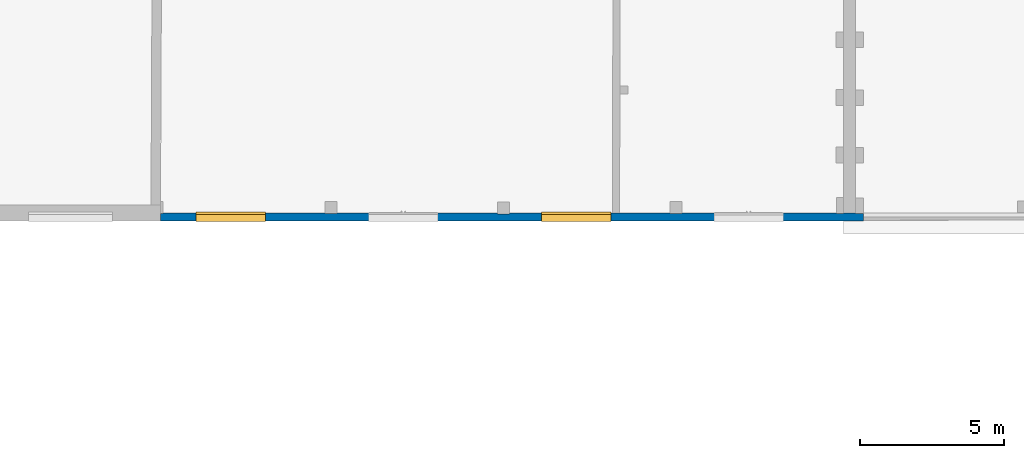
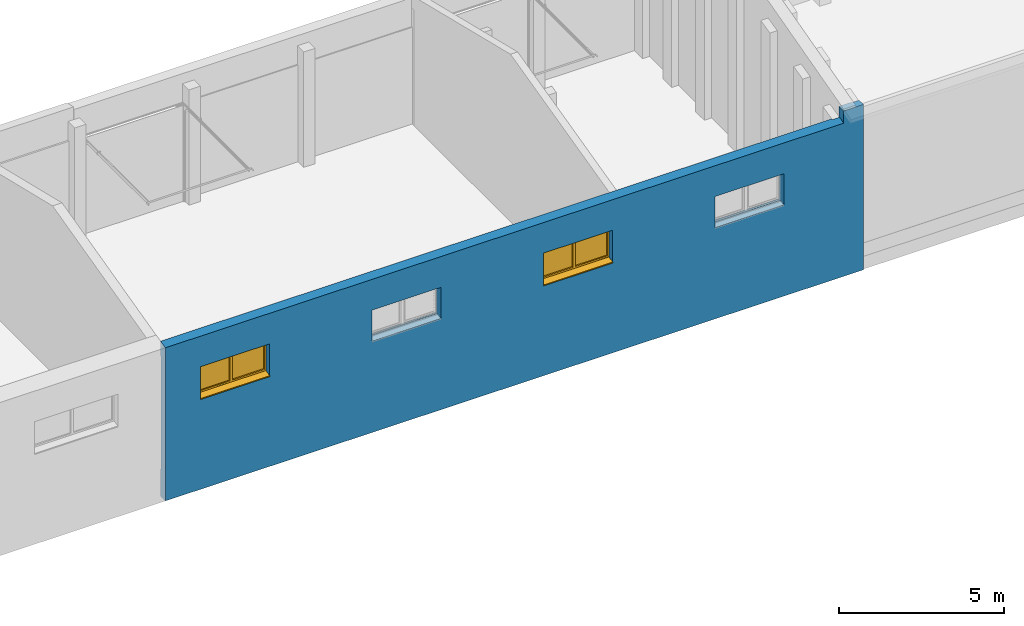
# One storey, part 107 of 301: 2 windows, 1 wall, 4 openings.
"""IFC2X3 building model written with IfcOpenShell, lengths in millimetres."""

import ifcopenshell
import ifcopenshell.guid

model = None  # the IFC model being written
_history = None  # IfcOwnerHistory: only IFC2X3 demands one
_inside = {}  # id of a spatial element -> (the spatial element, [elements in it])
_under = {}  # id of a project, library or spatial element -> (it, [spatial elements below it])
_declared = {}  # id of a project -> (the project, [libraries it declares])
_typed = {}  # id of a type object -> (the type object, [elements of that type])
_made_of = {}  # id of a material, layer set ... -> (it, [elements and type objects made of it])


def new_model(schema):
    """Start an empty IFC model of exactly this schema.

    Asked for "IFC4X3", IfcOpenShell would pick the latest addendum, in which some entities
    have other attributes; the version numbers below select the first issue.
    IFC2X3 requires an IfcOwnerHistory on every rooted entity: one is made here for all.
    """
    global model, _history
    if schema == "IFC4X3":
        model = ifcopenshell.file(schema_version=(4, 3, 0, 0))
    else:
        model = ifcopenshell.file(schema=schema)
    _inside.clear()
    _under.clear()
    _declared.clear()
    _typed.clear()
    _made_of.clear()
    _history = None
    if model.schema == "IFC2X3":
        org = make("IfcOrganization", Name="unknown")
        user = make(
            "IfcPersonAndOrganization",
            ThePerson=make("IfcPerson", FamilyName="unknown"),
            TheOrganization=org,
        )
        app = make(
            "IfcApplication",
            ApplicationDeveloper=org,
            Version="unknown",
            ApplicationFullName="unknown",
            ApplicationIdentifier="unknown",
        )
        _history = make(
            "IfcOwnerHistory",
            OwningUser=user,
            OwningApplication=app,
            ChangeAction="ADDED",
            CreationDate=0,
        )
    return model


def make(cls, **values):
    """One entity of the class cls with the attributes given. An attribute that is None is left unset."""
    return model.create_entity(
        cls, **{name: value for name, value in values.items() if value is not None}
    )


def entity(cls, *values):
    """Any entity or typed value of the class cls, its attributes in the order of the schema. None: left unset."""
    e = model.create_entity(cls)
    for i, value in enumerate(values):
        if value is not None:
            e[i] = value
    return e


def rooted(cls, **values):
    """An entity with a GlobalId (a new one), such as an element, a storey or a relation."""
    return make(cls, GlobalId=ifcopenshell.guid.new(), OwnerHistory=_history, **values)


def si_unit(unit_type, name, prefix=None):
    """IfcSIUnit, for example si_unit("LENGTHUNIT", "METRE", prefix="MILLI")."""
    return make("IfcSIUnit", UnitType=unit_type, Prefix=prefix, Name=name)


def converted_unit(unit_type, name, factor, base, dimensions=None, offset=None):
    """IfcConversionBasedUnit, such as the inch: factor (a typed value) times the base unit."""
    return make(
        "IfcConversionBasedUnit"
        if offset is None
        else "IfcConversionBasedUnitWithOffset",
        ConversionOffset=offset,
        Dimensions=None
        if dimensions is None
        else entity("IfcDimensionalExponents", *dimensions),
        UnitType=unit_type,
        Name=name,
        ConversionFactor=make(
            "IfcMeasureWithUnit", ValueComponent=factor, UnitComponent=base
        ),
    )


def derived_unit(unit_type, elements):
    """IfcDerivedUnit: a product of units, each with its exponent."""
    return make(
        "IfcDerivedUnit",
        Elements=[
            make("IfcDerivedUnitElement", Unit=unit, Exponent=power)
            for unit, power in elements
        ],
        UnitType=unit_type,
    )


def money_unit(currency):
    """IfcMonetaryUnit."""
    return make("IfcMonetaryUnit", Currency=currency)


def assignment(units):
    """IfcUnitAssignment: the units of a project."""
    return None if units is None else make("IfcUnitAssignment", Units=units)


def point(xyz):
    """IfcCartesianPoint."""
    return None if xyz is None else make("IfcCartesianPoint", Coordinates=xyz)


def direction(xyz):
    """IfcDirection."""
    return None if xyz is None else make("IfcDirection", DirectionRatios=xyz)


def frame(location, z_axis=None, x_axis=None):
    """IfcAxis2Placement3D, a coordinate frame: its origin and axes. An axis left out is left unset."""
    return make(
        "IfcAxis2Placement3D",
        Location=point(location),
        Axis=direction(z_axis),
        RefDirection=direction(x_axis),
    )


def origin_with_axes():
    """The frame at (0, 0, 0) with the z axis (0, 0, 1) and the x axis (1, 0, 0) written out."""
    return frame((0.0, 0.0, 0.0), z_axis=(0.0, 0.0, 1.0), x_axis=(1.0, 0.0, 0.0))


def place(relative_to, where):
    """IfcLocalPlacement: puts the frame where relative to a parent placement (None: the world)."""
    return make(
        "IfcLocalPlacement", PlacementRelTo=relative_to, RelativePlacement=where
    )


def context(
    kind, dimensions, precision=None, world=None, true_north=None, identifier=None
):
    """IfcGeometricRepresentationContext, for example the 3D "Model" context."""
    return make(
        "IfcGeometricRepresentationContext",
        ContextIdentifier=identifier,
        ContextType=kind,
        CoordinateSpaceDimension=dimensions,
        Precision=precision,
        WorldCoordinateSystem=world,
        TrueNorth=true_north,
    )


def subcontext(parent, identifier, kind, view, scale=None):
    """IfcGeometricRepresentationSubContext, for example "Body" below "Model"."""
    return make(
        "IfcGeometricRepresentationSubContext",
        ContextIdentifier=identifier,
        ContextType=kind,
        ParentContext=parent,
        TargetScale=scale,
        TargetView=view,
    )


def project(units=None, contexts=None):
    """IfcProject with its units and contexts."""
    return rooted(
        "IfcProject",
        Name="project",
        RepresentationContexts=contexts,
        UnitsInContext=assignment(units),
    )


def spatial(cls, under=None, at=None, **own):
    """A site, building, storey or space (cls), placed at a placement, below another one or the project."""
    s = rooted(cls, ObjectPlacement=at, **own)
    if under is not None:
        _under.setdefault(under.id(), (under, []))[1].append(s)
    return s


def faces_of(points, faces, orient=None, outer=None):
    """IfcFace entities. A face is a list of loops; a loop is a list of indices into points, from 0.

    orient and outer hold one flag for each loop. By default every Orientation is true, the
    first loop of a face is its IfcFaceOuterBound and the others are IfcFaceBound.
    """
    made = []
    for i, loops in enumerate(faces):
        bounds = []
        for j, loop in enumerate(loops):
            is_outer = j == 0 if outer is None else outer[i][j]
            bounds.append(
                make(
                    "IfcFaceOuterBound" if is_outer else "IfcFaceBound",
                    Bound=make("IfcPolyLoop", Polygon=[points[k] for k in loop]),
                    Orientation=True if orient is None else orient[i][j],
                )
            )
        made.append(make("IfcFace", Bounds=bounds))
    return made


def open_shell(faces, orient=None, outer=None):
    """The faces of one IfcOpenShell. surface_model builds it on its shared points."""
    return ("IfcOpenShell", faces, orient, outer)


def faceted_brep(points, faces, orient=None, outer=None, voids=None):
    """IfcFacetedBrep: a solid bounded by flat faces; with voids (closed shells), ...WithVoids."""
    shared = [point(p) for p in points]
    hull = make("IfcClosedShell", CfsFaces=faces_of(shared, faces, orient, outer))
    if voids is None:
        return make("IfcFacetedBrep", Outer=hull)
    return make(
        "IfcFacetedBrepWithVoids",
        Outer=hull,
        Voids=[
            make(cls, CfsFaces=faces_of(shared, fs, o, b)) for cls, fs, o, b in voids
        ],
    )


def surface_model(cls, points, shells):
    """IfcFaceBasedSurfaceModel or IfcShellBasedSurfaceModel (cls): surfaces that need not close."""
    shared = [point(p) for p in points]
    made = [make(c, CfsFaces=faces_of(shared, fs, o, b)) for c, fs, o, b in shells]
    if cls == "IfcFaceBasedSurfaceModel":
        return make(cls, FbsmFaces=made)
    return make(cls, SbsmBoundary=made)


def shape(context_of_items, identifier, shape_type, items):
    """IfcShapeRepresentation: the items that make up one representation, for example the "Body"."""
    return make(
        "IfcShapeRepresentation",
        ContextOfItems=context_of_items,
        RepresentationIdentifier=identifier,
        RepresentationType=shape_type,
        Items=items,
    )


def source(mapping_origin, context_of_items, identifier, shape_type, items):
    """IfcRepresentationMap: a shape defined once, which mapped items show again and again."""
    return make(
        "IfcRepresentationMap",
        MappingOrigin=mapping_origin,
        MappedRepresentation=shape(context_of_items, identifier, shape_type, items),
    )


def transform(
    local_origin,
    x_axis=None,
    y_axis=None,
    z_axis=None,
    scale=None,
    scale2=None,
    scale3=None,
    uniform=True,
):
    """IfcCartesianTransformationOperator3D, or its non-uniform kind. x_axis, y_axis, z_axis: its Axis1, 2, 3."""
    if uniform:
        return make(
            "IfcCartesianTransformationOperator3D",
            Axis1=direction(x_axis),
            Axis2=direction(y_axis),
            LocalOrigin=point(local_origin),
            Scale=scale,
            Axis3=direction(z_axis),
        )
    return make(
        "IfcCartesianTransformationOperator3DnonUniform",
        Axis1=direction(x_axis),
        Axis2=direction(y_axis),
        LocalOrigin=point(local_origin),
        Scale=scale,
        Axis3=direction(z_axis),
        Scale2=scale2,
        Scale3=scale3,
    )


def mapped(mapping_source, mapping_target):
    """IfcMappedItem: shows the shape of a source again, moved by a transform."""
    return make(
        "IfcMappedItem", MappingSource=mapping_source, MappingTarget=mapping_target
    )


def material(Name=None, Category=None):
    """IfcMaterial."""
    return make("IfcMaterial", Name=Name, Category=Category)


def made_of(thing, what):
    """Note that an element or type object is made of a material, layer set ...; save() writes the relation."""
    if what is not None:
        _made_of.setdefault(what.id(), (what, []))[1].append(thing)
    return thing


def type_object(cls, material=None, **own):
    """A type object (cls), such as IfcWallType, which elements share."""
    return made_of(rooted(cls, **own), material)


def element(
    cls,
    number,
    at=None,
    inside=None,
    cuts=None,
    type_object=None,
    material=None,
    context=None,
    identifier="Body",
    shape_type=None,
    held_by="IfcProductDefinitionShape",
    body=None,
    shapes=None,
    **own,
):
    """One element of the class cls, such as IfcWall. Its Tag is "e" and its number.

    at: its placement. inside: the storey or other place that contains it. cuts: it is an
    opening in that element (IfcRelVoidsElement). A single representation is given by context,
    identifier, shape_type and body (its items); several are given by shapes. held_by: the class
    of the entity that holds the representations. save() writes the other relations.
    """
    e = rooted(cls, Tag="e%d" % number, ObjectPlacement=at, **own)
    if body is not None:
        shapes = [shape(context, identifier, shape_type, body)]
    if shapes is not None:
        e.Representation = make(held_by, Representations=shapes)
    if inside is not None:
        _inside.setdefault(inside.id(), (inside, []))[1].append(e)
    if cuts is not None:
        rooted(
            "IfcRelVoidsElement", RelatingBuildingElement=cuts, RelatedOpeningElement=e
        )
    if type_object is not None:
        _typed.setdefault(type_object.id(), (type_object, []))[1].append(e)
    return made_of(e, material)


def fill(opening, filler):
    """IfcRelFillsElement: the door or window that sits in an opening."""
    return rooted(
        "IfcRelFillsElement",
        RelatingOpeningElement=opening,
        RelatedBuildingElement=filler,
    )


def aggregate(whole, parts):
    """IfcRelAggregates: a whole, such as a stair, and the parts it consists of."""
    return rooted("IfcRelAggregates", RelatingObject=whole, RelatedObjects=parts)


def save(model, path):
    """Write the relations noted so far, then the file.

    IfcRelAggregates (storeys below a building ...), IfcRelContainedInSpatialStructure (elements
    in a storey), IfcRelDefinesByType, IfcRelAssociatesMaterial and IfcRelDeclares: one each for
    every whole, place, type object, material and project.
    """
    for whole, parts in _under.values():
        aggregate(whole, parts)
    for where, things in _inside.values():
        rooted(
            "IfcRelContainedInSpatialStructure",
            RelatedElements=things,
            RelatingStructure=where,
        )
    for kind, things in _typed.values():
        rooted("IfcRelDefinesByType", RelatedObjects=things, RelatingType=kind)
    for what, things in _made_of.values():
        rooted("IfcRelAssociatesMaterial", RelatedObjects=things, RelatingMaterial=what)
    for by, libraries in _declared.values():
        rooted("IfcRelDeclares", RelatingContext=by, RelatedDefinitions=libraries)
    model.write(path)


model = new_model("IFC2X3")

# Units and contexts
model_context = context("Model", 3, precision=0.01, world=origin_with_axes(), true_north=direction((0.0, 1.0)))
body_context = subcontext(model_context, "Body", "Model", "MODEL_VIEW")
ifc_project = project(units=[si_unit("LENGTHUNIT", "METRE", prefix="MILLI"), si_unit("AREAUNIT", "SQUARE_METRE"), si_unit("VOLUMEUNIT", "CUBIC_METRE"), converted_unit("PLANEANGLEUNIT", "DEGREE", entity("IfcPlaneAngleMeasure", 0.0174532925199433), si_unit("PLANEANGLEUNIT", "RADIAN"), dimensions=[0, 0, 0, 0, 0, 0, 0]), money_unit("EUR"), converted_unit("TIMEUNIT", "Year", entity("IfcTimeMeasure", 31557600.0), si_unit("TIMEUNIT", "SECOND"), dimensions=[0, 0, 1, 0, 0, 0, 0]), si_unit("MASSUNIT", "GRAM", prefix="KILO"), si_unit("THERMODYNAMICTEMPERATUREUNIT", "DEGREE_CELSIUS"), si_unit("LUMINOUSINTENSITYUNIT", "LUMEN"), si_unit("ENERGYUNIT", "JOULE", prefix="MEGA"), derived_unit("THERMALCONDUCTANCEUNIT", [(si_unit("POWERUNIT", "WATT"), 1), (si_unit("LENGTHUNIT", "METRE"), -1), (si_unit("THERMODYNAMICTEMPERATUREUNIT", "KELVIN"), -1)]), derived_unit("SPECIFICHEATCAPACITYUNIT", [(si_unit("ENERGYUNIT", "JOULE"), 1), (si_unit("MASSUNIT", "GRAM", prefix="KILO"), -1), (si_unit("THERMODYNAMICTEMPERATUREUNIT", "KELVIN"), -1)]), derived_unit("MASSDENSITYUNIT", [(si_unit("MASSUNIT", "GRAM", prefix="KILO"), 1), (si_unit("VOLUMEUNIT", "CUBIC_METRE"), -1)])], contexts=[model_context])

# Site, building, storey
site_placement = place(None, frame((0.0, 0.0, 8650.0), z_axis=(0.0, 0.0, 1.0), x_axis=(1.0, 0.0, 0.0)))
site = spatial("IfcSite", under=ifc_project, at=site_placement, Name="43301:001:0844", CompositionType="ELEMENT")
building_placement = place(site_placement, origin_with_axes())
building = spatial("IfcBuilding", under=site, at=building_placement, Name="Kuressaare Ametikooli tuulikute mehaanikute õppekorpus", CompositionType="ELEMENT")
storey_placement = place(building_placement, origin_with_axes())
storey = spatial("IfcBuildingStorey", under=building, at=storey_placement, Name="1.korrus", CompositionType="ELEMENT", Elevation=0.0)

# Wall, openings, windows
ifc_material = material(Name="GENEERILINE - KONSTRUKTRIOON")
wall_type = type_object("IfcWallType", Name="GENEERILINE - KONSTRUKTRIOON 290", PredefinedType="NOTDEFINED")
wall_placement = place(storey_placement, frame((200953.7988836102, 13517.65771690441, -1000.0), z_axis=(0.0, 0.0, 1.0), x_axis=(-1.0, 0.0, 0.0)))
wall = element("IfcWall", 1, at=wall_placement, inside=storey, type_object=wall_type, material=ifc_material, Name="VS-XX", context=body_context, shape_type="Brep", body=[
    faceted_brep([(690.1785833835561, -259.9999999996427, 5733.309494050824), (690.1785833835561, -259.9999999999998, 6123.187574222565), (690.1785833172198, -289.9999999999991, 6123.187574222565), (690.1785833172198, -289.9999999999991, 1000.0), (690.1785833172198, -259.9999999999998, 1000.0), (690.1785833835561, 0.0, 6123.187574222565), (690.1785833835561, 0.0, 5670.001135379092), (0.0, 0.0, 6123.187574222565), (-0.0002901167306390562, -259.604008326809, 6123.187574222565), (270.1786931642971, -259.604062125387, 6123.187574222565), (270.1786871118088, -289.9999999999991, 6123.187574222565), (24444.65886896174, -290.0000000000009, 5740.614304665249), (940.178673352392, -289.9999999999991, 5740.614304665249), (940.178673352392, -289.9999999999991, 1000.0), (270.1785410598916, -289.9999999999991, 469.9999999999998), (0.0, -289.9999999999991, 469.9999999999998), (0.0, -289.9999999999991, 0.0), (24444.65886896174, -290.0000000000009, 0.0), (24444.65886896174, -290.0000000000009, 1000.0), (24354.02165696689, -290.0000000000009, 1000.0), (24354.02165696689, -290.0000000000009, 5200.0), (24444.65886896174, -290.0000000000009, 5200.0), (12309.04459543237, -289.9999999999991, 5250.0), (12729.04459585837, -289.9999999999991, 5250.0), (12729.04459585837, -289.9999999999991, 1000.0), (12309.04459543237, -289.9999999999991, 1000.0), (18309.02165696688, -289.9999999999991, 5250.0), (18729.02165739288, -289.9999999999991, 5250.0), (18729.02165739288, -290.0000000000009, 1000.0), (18309.02165696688, -290.0000000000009, 1000.0), (6308.406543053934, -289.9999999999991, 5250.0), (6728.406546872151, -289.9999999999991, 5250.0), (6728.406546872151, -289.9999999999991, 1000.0), (6308.406543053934, -289.9999999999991, 1000.0), (20792.81231286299, -290.0000000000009, 3420.0), (20792.81231286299, -290.0000000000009, 4540.0), (23212.81231286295, -290.0000000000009, 4540.0), (23212.81231286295, -290.0000000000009, 3420.0), (11201.36036892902, -289.9999999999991, 4540.0), (11201.36036892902, -289.9999999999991, 3420.0), (8781.360368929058, -289.9999999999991, 3420.0), (8781.360368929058, -289.9999999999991, 4540.0), (14792.65494283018, -290.0000000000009, 3430.0), (14792.65494283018, -290.0000000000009, 4530.0), (17212.65494283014, -290.0000000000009, 4530.0), (17212.65494283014, -290.0000000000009, 3430.0), (5203.376025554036, -289.9999999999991, 4530.0), (5203.376025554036, -289.9999999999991, 3430.0), (2783.376025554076, -289.9999999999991, 3430.0), (2783.376025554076, -289.9999999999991, 4530.0), (940.178673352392, -259.9999999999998, 1000.0), (940.178673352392, -259.9999999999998, 5733.309494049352), (24444.65886896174, 0.0, 5670.001135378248), (24444.65886896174, 0.0, 0.0), (0.0, 0.0, 0.0), (20792.81231286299, 0.0, 4540.0), (20792.81231286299, 0.0, 3370.0), (23212.81231286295, 0.0, 3370.0), (23212.81231286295, 0.0, 4540.0), (11201.36036892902, 0.0, 3370.0), (11201.36036892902, 0.0, 4540.0), (8781.360368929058, 0.0, 4540.0), (8781.360368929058, 0.0, 3370.0), (14792.65494283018, 0.0, 4530.0), (14792.65494283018, 0.0, 3380.0), (17212.65494283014, 0.0, 3380.0), (17212.65494283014, 0.0, 4530.0), (5203.376025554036, 0.0, 3380.0), (5203.376025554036, 0.0, 4530.0), (2783.376025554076, 0.0, 4530.0), (2783.376025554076, 0.0, 3380.0), (0.0, -280.0601435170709, 469.9999999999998), (-0.0002941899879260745, -280.0601435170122, 549.9999999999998), (-0.0002901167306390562, -259.604008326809, 549.9999999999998), (270.1786931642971, -259.604062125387, 549.9999999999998), (270.1786891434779, -279.7967655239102, 549.9999999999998), (270.1785410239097, -279.79676552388, 469.9999999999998), (24444.65886896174, -259.9999999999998, 5200.0), (24444.65886896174, -259.9999999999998, 1000.0), (24354.02165696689, -259.9999999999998, 1000.0), (24354.02165696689, -259.9999999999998, 5200.0), (12309.04459543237, -243.4090066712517, 5250.0), (12729.04459585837, -243.4090066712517, 5250.0), (12729.04459585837, -243.4090066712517, 1000.0), (12309.04459543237, -243.4090066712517, 1000.0), (18309.02165696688, -259.9999999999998, 5250.0), (18729.02165739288, -259.9999999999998, 5250.0), (18729.02165739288, -259.9999999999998, 1000.0), (18309.02165696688, -259.9999999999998, 1000.0), (6308.406543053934, -259.9999999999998, 5250.0), (6728.406546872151, -259.9999999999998, 5250.0), (6728.406546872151, -259.9999999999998, 1000.0), (6308.406543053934, -259.9999999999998, 1000.0), (20792.81231286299, -230.0000000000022, 3420.0), (20792.81231286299, -230.0000000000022, 4540.0), (23212.81231286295, -230.0000000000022, 4540.0), (23212.81231286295, -230.0000000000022, 3420.0), (11201.36036892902, -230.0000000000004, 3420.0), (11201.36036892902, -230.0000000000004, 4540.0), (8781.360368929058, -230.0000000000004, 3420.0), (8781.360368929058, -230.0000000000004, 4540.0), (14792.65494283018, -230.0000000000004, 3430.0), (14792.65494283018, -230.0000000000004, 4530.0), (17212.65494283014, -230.0000000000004, 4530.0), (17212.65494283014, -230.0000000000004, 3430.0), (5203.376025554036, -209.9999999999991, 3430.0), (5203.376025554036, -209.9999999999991, 4530.0), (2783.376025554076, -209.9999999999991, 3430.0), (2783.376025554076, -209.9999999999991, 4530.0), (20792.81231286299, -230.000000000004, 3370.0), (23212.81231286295, -230.000000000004, 3370.0), (11201.36036892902, -230.0000000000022, 3370.0), (8781.360368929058, -230.0000000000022, 3370.0), (14792.65494283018, -230.0000000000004, 3380.0), (17212.65494283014, -230.0000000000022, 3380.0), (5203.376025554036, -210.0000000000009, 3380.0), (2783.376025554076, -209.9999999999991, 3380.0)], [[[0, 1, 2, 3, 4]], [[5, 1, 0, 6]], [[1, 5, 7, 8, 9, 10, 2]], [[11, 12, 13, 3, 2, 10, 14, 15, 16, 17, 18, 19, 20, 21], [22, 23, 24, 25], [26, 27, 28, 29], [30, 31, 32, 33], [34, 35, 36, 37], [38, 39, 40, 41], [42, 43, 44, 45], [46, 47, 48, 49]], [[50, 4, 3, 13]], [[51, 0, 4, 50]], [[0, 51, 12, 11, 52, 6]], [[6, 52, 53, 54, 7, 5], [55, 56, 57, 58], [59, 60, 61, 62], [63, 64, 65, 66], [67, 68, 69, 70]], [[71, 72, 73, 8, 7, 54, 16, 15]], [[73, 74, 9, 8]], [[9, 74, 75, 76, 14, 10]], [[12, 51, 50, 13]], [[15, 14, 76, 71]], [[53, 17, 16, 54]], [[52, 11, 21, 77, 78, 18, 17, 53]], [[78, 79, 19, 18]], [[79, 80, 20, 19]], [[80, 77, 21, 20]], [[81, 82, 23, 22]], [[82, 83, 24, 23]], [[83, 84, 25, 24]], [[84, 81, 22, 25]], [[85, 86, 27, 26]], [[86, 87, 28, 27]], [[87, 88, 29, 28]], [[88, 85, 26, 29]], [[89, 90, 31, 30]], [[90, 91, 32, 31]], [[91, 92, 33, 32]], [[92, 89, 30, 33]], [[34, 93, 94, 35]], [[35, 94, 95, 36]], [[36, 95, 96, 37]], [[37, 96, 93, 34]], [[97, 39, 38, 98]], [[99, 40, 39, 97]], [[100, 41, 40, 99]], [[98, 38, 41, 100]], [[42, 101, 102, 43]], [[43, 102, 103, 44]], [[44, 103, 104, 45]], [[45, 104, 101, 42]], [[105, 47, 46, 106]], [[107, 48, 47, 105]], [[108, 49, 48, 107]], [[106, 46, 49, 108]], [[93, 109, 56, 55, 94]], [[109, 110, 57, 56]], [[95, 58, 57, 110, 96]], [[94, 55, 58, 95]], [[60, 59, 111, 97, 98]], [[60, 98, 100, 61]], [[112, 62, 61, 100, 99]], [[59, 62, 112, 111]], [[64, 63, 102, 101, 113]], [[113, 114, 65, 64]], [[65, 114, 104, 103, 66]], [[102, 63, 66, 103]], [[115, 105, 106, 68, 67]], [[68, 106, 108, 69]], [[69, 108, 107, 116, 70]], [[67, 70, 116, 115]], [[71, 76, 75, 72]], [[75, 74, 73, 72]], [[80, 79, 78, 77]], [[81, 84, 83, 82]], [[85, 88, 87, 86]], [[89, 92, 91, 90]], [[96, 110, 109, 93]], [[112, 99, 97, 111]], [[104, 114, 113, 101]], [[116, 107, 105, 115]]]),
])
opening_1_placement = place(wall_placement, frame((22002.81231286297, 0.0, 3420.0), z_axis=(0.0, 0.0, 1.0), x_axis=(1.0, 0.0, 0.0)))
opening_1 = element("IfcOpeningElement", 2, at=opening_1_placement, cuts=wall, Name="VA-XX", context=body_context, shape_type="Brep", body=[
    faceted_brep([(-1209.99999999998, -230.0000000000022, 0.0), (-1209.99999999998, -230.0000000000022, 1120.0), (-1209.99999999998, 0.9999999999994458, 1120.0), (-1209.99999999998, 0.9999999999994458, -49.99999999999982), (-1209.99999999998, -230.000000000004, -49.99999999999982), (-1209.99999999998, -290.9999999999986, 0.0), (-1209.99999999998, -290.9999999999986, 1120.0), (1209.99999999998, -230.0000000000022, 1120.0), (1209.99999999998, 0.9999999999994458, 1120.0), (1209.99999999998, 0.9999999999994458, -49.99999999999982), (1209.99999999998, -230.000000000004, -49.99999999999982), (1209.99999999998, -230.0000000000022, 0.0), (1209.99999999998, -290.9999999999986, 0.0), (1209.99999999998, -290.9999999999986, 1120.0)], [[[0, 1, 2, 3, 4]], [[1, 0, 5, 6]], [[1, 7, 8, 2]], [[8, 9, 3, 2]], [[10, 4, 3, 9]], [[11, 0, 4, 10]], [[0, 11, 12, 5]], [[6, 5, 12, 13]], [[7, 1, 6, 13]], [[7, 11, 10, 9, 8]], [[11, 7, 13, 12]]]),
])
opening_2_placement = place(wall_placement, frame((9991.360368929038, 0.0, 3420.0), z_axis=(0.0, 0.0, 1.0), x_axis=(1.0, 0.0, 0.0)))
opening_2 = element("IfcOpeningElement", 3, at=opening_2_placement, cuts=wall, Name="VA-XX", context=body_context, shape_type="Brep", body=[
    faceted_brep([(-1209.99999999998, -230.0000000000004, 0.0), (-1209.99999999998, -230.0000000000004, 1120.0), (-1209.99999999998, 1.000000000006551, 1120.0), (-1209.99999999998, 1.000000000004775, -49.99999999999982), (-1209.99999999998, -230.0000000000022, -49.99999999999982), (-1209.99999999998, -290.9999999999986, 0.0), (-1209.99999999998, -290.9999999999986, 1120.0), (1209.99999999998, -230.0000000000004, 1120.0), (1209.99999999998, 1.000000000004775, 1120.0), (1209.99999999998, 1.000000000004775, -49.99999999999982), (1209.99999999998, -230.0000000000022, -49.99999999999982), (1209.99999999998, -230.0000000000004, 0.0), (1209.99999999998, -290.9999999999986, 0.0), (1209.99999999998, -290.9999999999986, 1120.0)], [[[0, 1, 2, 3, 4]], [[1, 0, 5, 6]], [[1, 7, 8, 2]], [[8, 9, 3, 2]], [[10, 4, 3, 9]], [[11, 0, 4, 10]], [[0, 11, 12, 5]], [[6, 5, 12, 13]], [[7, 1, 6, 13]], [[7, 11, 10, 9, 8]], [[11, 7, 13, 12]]]),
])
opening_3_placement = place(wall_placement, frame((16002.65494283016, 0.0, 3430.0), z_axis=(0.0, 0.0, 1.0), x_axis=(1.0, 0.0, 0.0)))
element("IfcOpeningElement", 4, at=opening_3_placement, cuts=wall, Name="VA-XX", context=body_context, shape_type="Brep", body=[
    faceted_brep([(-1209.99999999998, -230.0000000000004, 0.0), (-1209.99999999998, -230.0000000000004, 1100.0), (-1209.99999999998, 1.000000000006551, 1100.0), (-1209.99999999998, 1.000000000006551, -49.99999999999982), (-1209.99999999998, -230.0000000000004, -49.99999999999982), (-1209.99999999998, -290.9999999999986, 0.0), (-1209.99999999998, -290.9999999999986, 1100.0), (1209.99999999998, -230.0000000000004, 1100.0), (1209.99999999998, 1.000000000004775, 1100.0), (1209.99999999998, 1.000000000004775, -49.99999999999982), (1209.99999999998, -230.0000000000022, -49.99999999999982), (1209.99999999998, -230.0000000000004, 0.0), (1209.99999999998, -290.9999999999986, 0.0), (1209.99999999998, -290.9999999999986, 1100.0)], [[[0, 1, 2, 3, 4]], [[1, 0, 5, 6]], [[1, 7, 8, 2]], [[8, 9, 3, 2]], [[10, 4, 3, 9]], [[11, 0, 4, 10]], [[0, 11, 12, 5]], [[6, 5, 12, 13]], [[7, 1, 6, 13]], [[7, 11, 10, 9, 8]], [[11, 7, 13, 12]]]),
])
opening_4_placement = place(wall_placement, frame((3993.376025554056, 0.0, 3430.0), z_axis=(0.0, 0.0, 1.0), x_axis=(1.0, 0.0, 0.0)))
element("IfcOpeningElement", 5, at=opening_4_placement, cuts=wall, Name="VA-XX", context=body_context, shape_type="Brep", body=[
    faceted_brep([(-1209.99999999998, -209.9999999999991, 0.0), (-1209.99999999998, -209.9999999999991, 1100.0), (-1209.99999999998, 1.000000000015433, 1100.0), (-1209.99999999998, 1.000000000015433, -49.99999999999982), (-1209.99999999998, -209.9999999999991, -49.99999999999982), (-1209.99999999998, -290.9999999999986, 0.0), (-1209.99999999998, -290.9999999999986, 1100.0), (1209.99999999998, -209.9999999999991, 1100.0), (1209.99999999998, 1.000000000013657, 1100.0), (1209.99999999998, 1.000000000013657, -49.99999999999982), (1209.99999999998, -210.0000000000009, -49.99999999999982), (1209.99999999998, -209.9999999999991, 0.0), (1209.99999999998, -290.9999999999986, 0.0), (1209.99999999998, -290.9999999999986, 1100.0)], [[[0, 1, 2, 3, 4]], [[1, 0, 5, 6]], [[1, 7, 8, 2]], [[8, 9, 3, 2]], [[10, 4, 3, 9]], [[11, 0, 4, 10]], [[0, 11, 12, 5]], [[6, 5, 12, 13]], [[7, 1, 6, 13]], [[7, 11, 10, 9, 8]], [[11, 7, 13, 12]]]),
])
window_style = type_object("IfcWindowStyle", Name="Double Window 27", ConstructionType="NOTDEFINED", OperationType="DOUBLE_PANEL_VERTICAL", ParameterTakesPrecedence=False, Sizeable=False)
shared_shape = source(origin_with_axes(), body_context, "Body", "SurfaceModel", [
    surface_model("IfcShellBasedSurfaceModel", [(-1209.99999999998, -86.00000000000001, -9.999999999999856), (-1209.99999999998, -325.0000000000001, -51.7391304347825), (1209.99999999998, -325.0000000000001, -51.73913043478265), (1209.99999999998, -86.00000000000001, -10.00000000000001), (-1209.99999999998, -325.0000000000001, -86.7391304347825), (1209.99999999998, -325.0000000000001, -86.73913043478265), (1209.99999999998, -86.00000000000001, 0.0), (-1209.99999999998, -86.00000000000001, 0.0), (-1209.99999999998, -320.0, -81.7391304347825), (1209.99999999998, -320.0, -81.73913043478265)], [open_shell([[[0, 1, 2, 3]], [[4, 5, 2, 1]], [[0, 3, 6, 7]], [[8, 9, 5, 4]]])]),
    faceted_brep([(1159.99999999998, -85.00000000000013, 1070.0), (1209.99999999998, -85.00000000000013, 1070.0), (1209.99999999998, 0.0, 1070.0), (1159.99999999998, 0.0, 1070.0), (1159.99999999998, -85.0, 49.99999999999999), (1209.99999999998, -85.0, 49.99999999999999), (1209.99999999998, 0.0, 50.00000000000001), (1159.99999999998, 0.0, 50.00000000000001)], [[[0, 1, 2, 3]], [[0, 4, 5, 1]], [[1, 5, 6, 2]], [[3, 2, 6, 7]], [[4, 0, 3, 7]], [[5, 4, 7, 6]]]),
    faceted_brep([(-1159.99999999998, -85.0, 49.99999999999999), (-1209.99999999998, -85.0, 49.99999999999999), (-1209.99999999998, 0.0, 50.00000000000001), (-1159.99999999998, 0.0, 50.00000000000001), (-1159.99999999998, -85.00000000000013, 1070.0), (-1209.99999999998, -85.00000000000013, 1070.0), (-1209.99999999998, 0.0, 1070.0), (-1159.99999999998, 0.0, 1070.0)], [[[0, 1, 2, 3]], [[0, 4, 5, 1]], [[1, 5, 6, 2]], [[3, 2, 6, 7]], [[4, 0, 3, 7]], [[5, 4, 7, 6]]]),
    faceted_brep([(50.00000000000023, -85.0, 49.99999999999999), (-49.99999999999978, -85.0, 49.99999999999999), (-49.99999999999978, 0.0, 50.00000000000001), (50.00000000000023, 0.0, 50.00000000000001), (50.00000000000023, -85.00000000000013, 1070.0), (-49.99999999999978, -85.00000000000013, 1070.0), (-49.99999999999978, 0.0, 1070.0), (50.00000000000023, 0.0, 1070.0)], [[[0, 1, 2, 3]], [[0, 4, 5, 1]], [[1, 5, 6, 2]], [[3, 2, 6, 7]], [[4, 0, 3, 7]], [[5, 4, 7, 6]]]),
    faceted_brep([(1159.99999999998, -85.0, 49.99999999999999), (1209.99999999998, -85.0, 49.99999999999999), (1209.99999999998, 0.0, 50.00000000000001), (1159.99999999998, 0.0, 50.00000000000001), (50.00000000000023, -85.0, 49.99999999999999), (-49.99999999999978, -85.0, 49.99999999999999), (-1159.99999999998, -85.0, 49.99999999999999), (-1209.99999999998, -85.0, 49.99999999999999), (-1209.99999999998, -85.0, 0.0), (1209.99999999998, -85.0, 0.0), (1209.99999999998, 0.0, 0.0), (-1209.99999999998, 0.0, 0.0), (-1209.99999999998, 0.0, 50.00000000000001), (-1159.99999999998, 0.0, 50.00000000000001), (-49.99999999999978, 0.0, 50.00000000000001), (50.00000000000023, 0.0, 50.00000000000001)], [[[0, 1, 2, 3]], [[0, 4, 5, 6, 7, 8, 9, 1]], [[1, 9, 10, 2]], [[3, 2, 10, 11, 12, 13, 14, 15]], [[4, 0, 3, 15]], [[5, 4, 15, 14]], [[6, 5, 14, 13]], [[7, 6, 13, 12]], [[8, 7, 12, 11]], [[9, 8, 11, 10]]]),
    faceted_brep([(50.00000000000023, -85.00000000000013, 1070.0), (-49.99999999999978, -85.00000000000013, 1070.0), (-49.99999999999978, 0.0, 1070.0), (50.00000000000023, 0.0, 1070.0), (1159.99999999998, -85.00000000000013, 1070.0), (1209.99999999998, -85.00000000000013, 1070.0), (1209.99999999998, -85.00000000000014, 1120.0), (-1209.99999999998, -85.00000000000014, 1120.0), (-1209.99999999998, -85.00000000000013, 1070.0), (-1159.99999999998, -85.00000000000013, 1070.0), (-1159.99999999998, 0.0, 1070.0), (-1209.99999999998, 0.0, 1070.0), (-1209.99999999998, 0.0, 1120.0), (1209.99999999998, 0.0, 1120.0), (1209.99999999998, 0.0, 1070.0), (1159.99999999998, 0.0, 1070.0)], [[[0, 1, 2, 3]], [[0, 4, 5, 6, 7, 8, 9, 1]], [[1, 9, 10, 2]], [[3, 2, 10, 11, 12, 13, 14, 15]], [[4, 0, 3, 15]], [[5, 4, 15, 14]], [[6, 5, 14, 13]], [[7, 6, 13, 12]], [[8, 7, 12, 11]], [[9, 8, 11, 10]]]),
    surface_model("IfcShellBasedSurfaceModel", [(1159.999999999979, -35.0, 49.99999999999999), (1159.999999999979, -35.00000000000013, 1070.0), (50.00000000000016, -35.00000000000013, 1070.0), (50.00000000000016, -35.0, 49.99999999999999)], [open_shell([[[0, 1, 2, 3]]])]),
    surface_model("IfcShellBasedSurfaceModel", [(1159.999999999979, -15.0, 49.99999999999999), (50.00000000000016, -15.0, 49.99999999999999), (50.00000000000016, -15.00000000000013, 1070.0), (1159.999999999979, -15.00000000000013, 1070.0)], [open_shell([[[0, 1, 2, 3]]])]),
    surface_model("IfcShellBasedSurfaceModel", [(-49.99999999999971, -35.0, 49.99999999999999), (-49.99999999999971, -35.00000000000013, 1070.0), (-1159.999999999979, -35.00000000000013, 1070.0), (-1159.999999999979, -35.0, 49.99999999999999)], [open_shell([[[0, 1, 2, 3]]])]),
    surface_model("IfcShellBasedSurfaceModel", [(-49.99999999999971, -15.0, 49.99999999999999), (-1159.999999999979, -15.0, 49.99999999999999), (-1159.999999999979, -15.00000000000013, 1070.0), (-49.99999999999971, -15.00000000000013, 1070.0)], [open_shell([[[0, 1, 2, 3]]])]),
])
window_1_placement = place(opening_1_placement, frame((1209.99999999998, 0.0, 0.0), z_axis=(0.0, 0.0, 1.0), x_axis=(-1.0, 0.0, 0.0)))
window_1 = element("IfcWindow", 6, at=window_1_placement, inside=storey, type_object=window_style, Name="VA-XX", OverallHeight=1120.0, OverallWidth=2420.0, context=body_context, shape_type="MappedRepresentation", body=[
    mapped(shared_shape, transform((1209.99999999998, 315.0000000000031, 0.0))),
])
fill(opening_1, window_1)
window_2_placement = place(opening_2_placement, frame((1209.99999999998, 0.0, 0.0), z_axis=(0.0, 0.0, 1.0), x_axis=(-1.0, 0.0, 0.0)))
window_2 = element("IfcWindow", 7, at=window_2_placement, inside=storey, type_object=window_style, Name="VA-XX", OverallHeight=1120.0, OverallWidth=2420.0, context=body_context, shape_type="MappedRepresentation", body=[
    mapped(shared_shape, transform((1209.99999999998, 315.0000000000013, 0.0))),
])
fill(opening_2, window_2)

save(model, "model.ifc")
